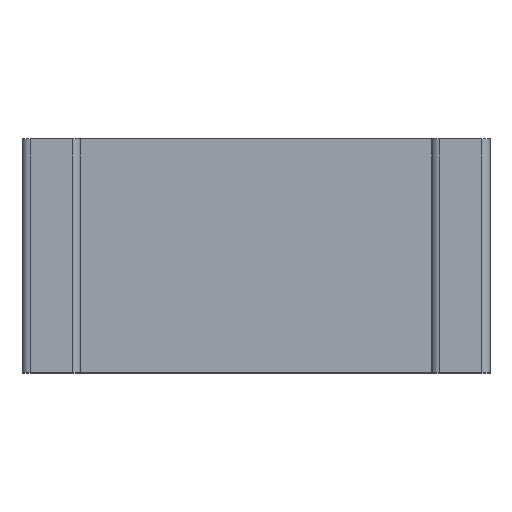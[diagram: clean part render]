
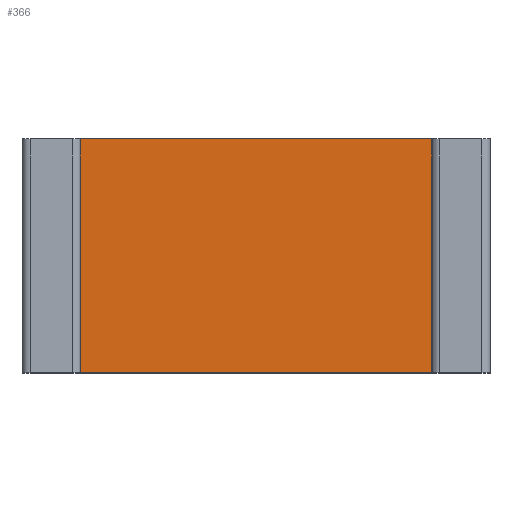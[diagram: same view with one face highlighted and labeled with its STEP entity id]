
A CAD part, top view. The second image highlights one B-rep face of the part: STEP entity #366.
In plain terms, the highlighted planar face has unit normal (0, 0, 1).
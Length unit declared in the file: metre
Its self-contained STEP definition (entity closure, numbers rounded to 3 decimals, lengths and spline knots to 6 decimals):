
#36=ORIENTED_EDGE('',*,*,#144,.F.);
#37=ORIENTED_EDGE('',*,*,#145,.T.);
#38=ORIENTED_EDGE('',*,*,#146,.T.);
#39=ORIENTED_EDGE('',*,*,#147,.F.);
#144=EDGE_CURVE('',#198,#199,#234,.T.);
#145=EDGE_CURVE('',#198,#200,#235,.T.);
#146=EDGE_CURVE('',#200,#201,#236,.T.);
#147=EDGE_CURVE('',#199,#201,#237,.T.);
#198=VERTEX_POINT('',#576);
#199=VERTEX_POINT('',#577);
#200=VERTEX_POINT('',#579);
#201=VERTEX_POINT('',#581);
#234=LINE('',#575,#272);
#235=LINE('',#578,#273);
#236=LINE('',#580,#274);
#237=LINE('',#582,#275);
#272=VECTOR('',#465,1.);
#273=VECTOR('',#466,1.);
#274=VECTOR('',#467,1.);
#275=VECTOR('',#468,1.);
#310=EDGE_LOOP('',(#36,#37,#38,#39));
#330=FACE_BOUND('',#310,.T.);
#350=PLANE('',#425);
#366=ADVANCED_FACE('',(#330),#350,.T.);
#425=AXIS2_PLACEMENT_3D('',#574,#463,#464);
#463=DIRECTION('',(0.,0.,1.));
#464=DIRECTION('',(1.,0.,0.));
#465=DIRECTION('',(0.,1.,0.));
#466=DIRECTION('',(1.,0.,0.));
#467=DIRECTION('',(0.,1.,0.));
#468=DIRECTION('',(1.,0.,0.));
#574=CARTESIAN_POINT('',(0.026498,0.02312,-0.000155));
#575=CARTESIAN_POINT('',(0.026498,0.02312,-0.000155));
#576=CARTESIAN_POINT('',(0.026498,0.02312,-0.000155));
#577=CARTESIAN_POINT('',(0.026498,0.02472,-0.000155));
#578=CARTESIAN_POINT('',(0.026498,0.02312,-0.000155));
#579=CARTESIAN_POINT('',(0.028898,0.02312,-0.000155));
#580=CARTESIAN_POINT('',(0.028898,0.02312,-0.000155));
#581=CARTESIAN_POINT('',(0.028898,0.02472,-0.000155));
#582=CARTESIAN_POINT('',(0.026498,0.02472,-0.000155));
